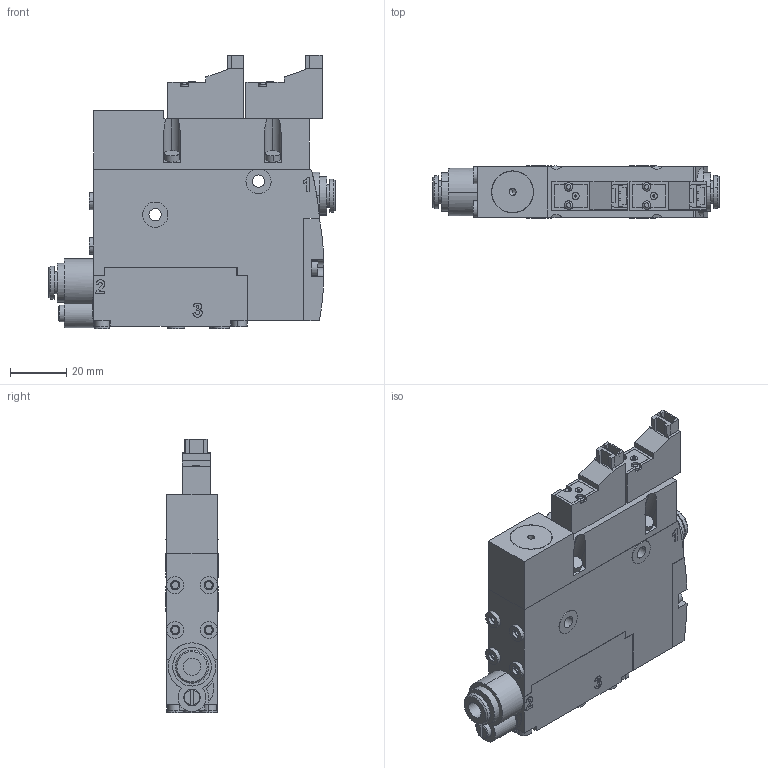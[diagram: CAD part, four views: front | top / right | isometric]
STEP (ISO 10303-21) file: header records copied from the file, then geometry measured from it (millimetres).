
FILE_DESCRIPTION(('STEP AP214'),'1');
FILE_NAME('10_02_02_04130.stp','2020-10-24T00:39:03',('TraceParts'),('TraceParts S.A.'),'Spatial InterOp 3D',' ',' ');
FILE_SCHEMA(('AUTOMOTIVE_DESIGN { 1 0 10303 214 1 1 1 1 }'));
Length unit declared in the file: millimetre
Products named in the file (1): 10_02_02_04130_1
Bounding box: 102.1 x 18.6 x 97.75 mm (x, y, z)
Volume: 116891.3 mm3; surface area: 38847 mm2
Topology: 10 solids, 10 shells, 721 faces, 1759 edges, 1152 vertices
Faces by surface type: plane 361, cylinder 272, bspline 72, cone 16
Entity records: 30078 total; most frequent: CARTESIAN_POINT 7255, ORIENTED_EDGE 3514, DIRECTION 3455, EDGE_CURVE 1757, AXIS2_PLACEMENT_3D 1216, VERTEX_POINT 1152, LINE 1023, VECTOR 1023
